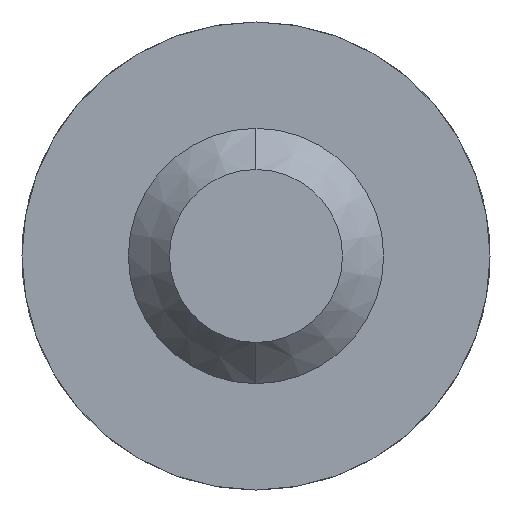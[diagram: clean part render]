
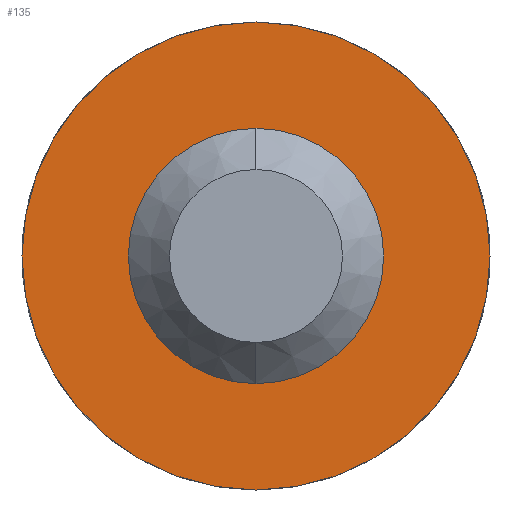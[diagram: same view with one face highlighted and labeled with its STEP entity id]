
A CAD part, left-side view. The second image highlights one B-rep face of the part: STEP entity #135.
In plain terms, the highlighted planar face has unit normal (-1, 0, 0).
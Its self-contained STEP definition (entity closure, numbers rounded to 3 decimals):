
#1 = DIRECTION ( 'NONE',  ( 1., 0., 0. ) ) ;
#5 = CARTESIAN_POINT ( 'NONE',  ( -9.361, 0., -0.945 ) ) ;
#51 = ORIENTED_EDGE ( 'NONE', *, *, #60, .T. ) ;
#53 = CIRCLE ( 'NONE', #136, 2.2 ) ;
#60 = EDGE_CURVE ( 'NONE', #370, #387, #53, .T. ) ;
#68 = DIRECTION ( 'NONE',  ( -1., 0., 0. ) ) ;
#94 = AXIS2_PLACEMENT_3D ( 'NONE', #749, #536, #452 ) ;
#135 = ADVANCED_FACE ( 'NONE', ( #596, #379 ), #386, .F. ) ;
#136 = AXIS2_PLACEMENT_3D ( 'NONE', #326, #757, #393 ) ;
#143 = AXIS2_PLACEMENT_3D ( 'NONE', #639, #68, #369 ) ;
#214 = VERTEX_POINT ( 'NONE', #643 ) ;
#228 = CIRCLE ( 'NONE', #696, 2.2 ) ;
#232 = ORIENTED_EDGE ( 'NONE', *, *, #694, .F. ) ;
#265 = CARTESIAN_POINT ( 'NONE',  ( -9.361, 2.2, 0. ) ) ;
#271 = EDGE_LOOP ( 'NONE', ( #431, #51 ) ) ;
#307 = DIRECTION ( 'NONE',  ( -1., 0., 0. ) ) ;
#326 = CARTESIAN_POINT ( 'NONE',  ( -9.361, 0., 0. ) ) ;
#339 = CARTESIAN_POINT ( 'NONE',  ( -9.361, 0., 2.2 ) ) ;
#342 = CIRCLE ( 'NONE', #143, 0.945 ) ;
#369 = DIRECTION ( 'NONE',  ( 0., 0., 1. ) ) ;
#370 = VERTEX_POINT ( 'NONE', #592 ) ;
#379 = FACE_OUTER_BOUND ( 'NONE', #271, .T. ) ;
#386 = PLANE ( 'NONE',  #708 ) ;
#387 = VERTEX_POINT ( 'NONE', #339 ) ;
#393 = DIRECTION ( 'NONE',  ( 0., 0., 1. ) ) ;
#431 = ORIENTED_EDGE ( 'NONE', *, *, #527, .T. ) ;
#441 = DIRECTION ( 'NONE',  ( 0., 0., -1. ) ) ;
#452 = DIRECTION ( 'NONE',  ( 0., 0., 1. ) ) ;
#494 = EDGE_LOOP ( 'NONE', ( #660, #232 ) ) ;
#508 = CARTESIAN_POINT ( 'NONE',  ( -9.361, 0., 0. ) ) ;
#527 = EDGE_CURVE ( 'NONE', #387, #370, #228, .T. ) ;
#532 = VERTEX_POINT ( 'NONE', #5 ) ;
#536 = DIRECTION ( 'NONE',  ( -1., 0., 0. ) ) ;
#592 = CARTESIAN_POINT ( 'NONE',  ( -9.361, 0., -2.2 ) ) ;
#596 = FACE_BOUND ( 'NONE', #494, .T. ) ;
#639 = CARTESIAN_POINT ( 'NONE',  ( -9.361, 0., 0. ) ) ;
#643 = CARTESIAN_POINT ( 'NONE',  ( -9.361, 0., 0.945 ) ) ;
#649 = EDGE_CURVE ( 'NONE', #214, #532, #342, .T. ) ;
#660 = ORIENTED_EDGE ( 'NONE', *, *, #649, .F. ) ;
#693 = DIRECTION ( 'NONE',  ( 0., 0., 1. ) ) ;
#694 = EDGE_CURVE ( 'NONE', #532, #214, #788, .T. ) ;
#696 = AXIS2_PLACEMENT_3D ( 'NONE', #508, #307, #693 ) ;
#708 = AXIS2_PLACEMENT_3D ( 'NONE', #265, #1, #441 ) ;
#749 = CARTESIAN_POINT ( 'NONE',  ( -9.361, 0., 0. ) ) ;
#757 = DIRECTION ( 'NONE',  ( -1., 0., 0. ) ) ;
#788 = CIRCLE ( 'NONE', #94, 0.945 ) ;
